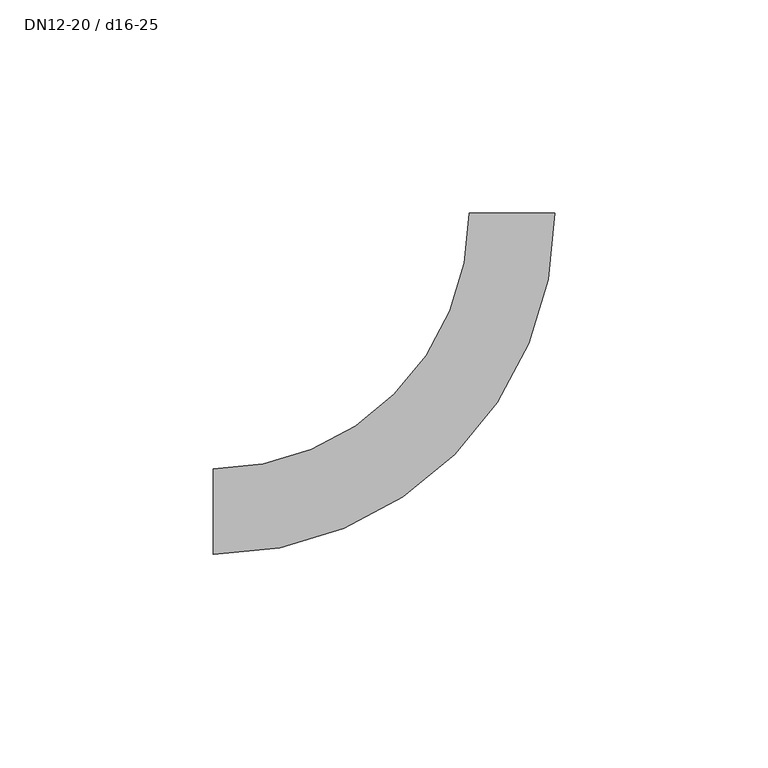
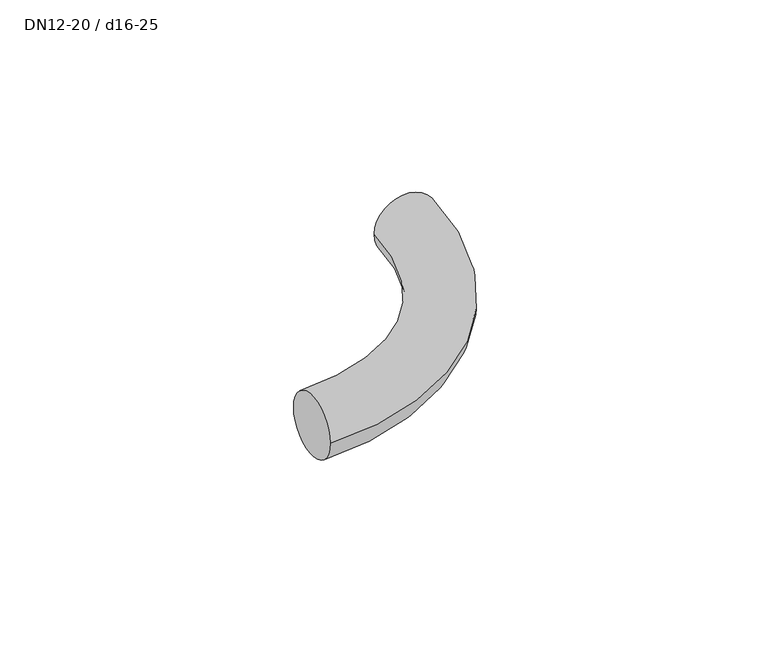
"""IFC4 building model written with IfcOpenShell, lengths in millimetres: pipe segment geometry, NLRS_50_PIF_UN_PushFit ML gebogen bocht_geb : DN12-20 / d16-25."""

import ifcopenshell
import ifcopenshell.guid

model = None  # the IFC model being written
_history = None  # IfcOwnerHistory: only IFC2X3 demands one
_inside = {}  # id of a spatial element -> (the spatial element, [elements in it])
_under = {}  # id of a project, library or spatial element -> (it, [spatial elements below it])
_declared = {}  # id of a project -> (the project, [libraries it declares])
_typed = {}  # id of a type object -> (the type object, [elements of that type])
_made_of = {}  # id of a material, layer set ... -> (it, [elements and type objects made of it])


def new_model(schema):
    """Start an empty IFC model of exactly this schema.

    Asked for "IFC4X3", IfcOpenShell would pick the latest addendum, in which some entities
    have other attributes; the version numbers below select the first issue.
    IFC2X3 requires an IfcOwnerHistory on every rooted entity: one is made here for all.
    """
    global model, _history
    if schema == "IFC4X3":
        model = ifcopenshell.file(schema_version=(4, 3, 0, 0))
    else:
        model = ifcopenshell.file(schema=schema)
    _inside.clear()
    _under.clear()
    _declared.clear()
    _typed.clear()
    _made_of.clear()
    _history = None
    if model.schema == "IFC2X3":
        org = make("IfcOrganization", Name="unknown")
        user = make(
            "IfcPersonAndOrganization",
            ThePerson=make("IfcPerson", FamilyName="unknown"),
            TheOrganization=org,
        )
        app = make(
            "IfcApplication",
            ApplicationDeveloper=org,
            Version="unknown",
            ApplicationFullName="unknown",
            ApplicationIdentifier="unknown",
        )
        _history = make(
            "IfcOwnerHistory",
            OwningUser=user,
            OwningApplication=app,
            ChangeAction="ADDED",
            CreationDate=0,
        )
    return model


def make(cls, **values):
    """One entity of the class cls with the attributes given. An attribute that is None is left unset."""
    return model.create_entity(
        cls, **{name: value for name, value in values.items() if value is not None}
    )


def rooted(cls, **values):
    """An entity with a GlobalId (a new one), such as an element, a storey or a relation."""
    return make(cls, GlobalId=ifcopenshell.guid.new(), OwnerHistory=_history, **values)


def si_unit(unit_type, name, prefix=None):
    """IfcSIUnit, for example si_unit("LENGTHUNIT", "METRE", prefix="MILLI")."""
    return make("IfcSIUnit", UnitType=unit_type, Prefix=prefix, Name=name)


def assignment(units):
    """IfcUnitAssignment: the units of a project."""
    return None if units is None else make("IfcUnitAssignment", Units=units)


def point(xyz):
    """IfcCartesianPoint."""
    return None if xyz is None else make("IfcCartesianPoint", Coordinates=xyz)


def direction(xyz):
    """IfcDirection."""
    return None if xyz is None else make("IfcDirection", DirectionRatios=xyz)


def frame(location, z_axis=None, x_axis=None):
    """IfcAxis2Placement3D, a coordinate frame: its origin and axes. An axis left out is left unset."""
    return make(
        "IfcAxis2Placement3D",
        Location=point(location),
        Axis=direction(z_axis),
        RefDirection=direction(x_axis),
    )


def origin():
    """The frame at (0, 0, 0) with its axes left unset."""
    return frame((0.0, 0.0, 0.0))


def place(relative_to, where):
    """IfcLocalPlacement: puts the frame where relative to a parent placement (None: the world)."""
    return make(
        "IfcLocalPlacement", PlacementRelTo=relative_to, RelativePlacement=where
    )


def context(
    kind, dimensions, precision=None, world=None, true_north=None, identifier=None
):
    """IfcGeometricRepresentationContext, for example the 3D "Model" context."""
    return make(
        "IfcGeometricRepresentationContext",
        ContextIdentifier=identifier,
        ContextType=kind,
        CoordinateSpaceDimension=dimensions,
        Precision=precision,
        WorldCoordinateSystem=world,
        TrueNorth=true_north,
    )


def project(units=None, contexts=None):
    """IfcProject with its units and contexts."""
    return rooted(
        "IfcProject",
        Name="project",
        RepresentationContexts=contexts,
        UnitsInContext=assignment(units),
    )


def spatial(cls, under=None, at=None, **own):
    """A site, building, storey or space (cls), placed at a placement, below another one or the project."""
    s = rooted(cls, ObjectPlacement=at, **own)
    if under is not None:
        _under.setdefault(under.id(), (under, []))[1].append(s)
    return s


def circle_curve(where, radius):
    """IfcCircle in the frame where."""
    return make("IfcCircle", Position=where, Radius=radius)


def ellipse_curve(where, semi_axis1, semi_axis2):
    """IfcEllipse in the frame where."""
    return make(
        "IfcEllipse", Position=where, SemiAxis1=semi_axis1, SemiAxis2=semi_axis2
    )


def trimmed(basis, trim1, trim2, sense, master):
    """IfcTrimmedCurve: the piece of a basis curve between two trims."""
    return make(
        "IfcTrimmedCurve",
        BasisCurve=basis,
        Trim1=trim1,
        Trim2=trim2,
        SenseAgreement=sense,
        MasterRepresentation=master,
    )


def shape(context_of_items, identifier, shape_type, items):
    """IfcShapeRepresentation: the items that make up one representation, for example the "Body"."""
    return make(
        "IfcShapeRepresentation",
        ContextOfItems=context_of_items,
        RepresentationIdentifier=identifier,
        RepresentationType=shape_type,
        Items=items,
    )


def source(mapping_origin, context_of_items, identifier, shape_type, items):
    """IfcRepresentationMap: a shape defined once, which mapped items show again and again."""
    return make(
        "IfcRepresentationMap",
        MappingOrigin=mapping_origin,
        MappedRepresentation=shape(context_of_items, identifier, shape_type, items),
    )


def transform(
    local_origin,
    x_axis=None,
    y_axis=None,
    z_axis=None,
    scale=None,
    scale2=None,
    scale3=None,
    uniform=True,
):
    """IfcCartesianTransformationOperator3D, or its non-uniform kind. x_axis, y_axis, z_axis: its Axis1, 2, 3."""
    if uniform:
        return make(
            "IfcCartesianTransformationOperator3D",
            Axis1=direction(x_axis),
            Axis2=direction(y_axis),
            LocalOrigin=point(local_origin),
            Scale=scale,
            Axis3=direction(z_axis),
        )
    return make(
        "IfcCartesianTransformationOperator3DnonUniform",
        Axis1=direction(x_axis),
        Axis2=direction(y_axis),
        LocalOrigin=point(local_origin),
        Scale=scale,
        Axis3=direction(z_axis),
        Scale2=scale2,
        Scale3=scale3,
    )


def mapped(mapping_source, mapping_target):
    """IfcMappedItem: shows the shape of a source again, moved by a transform."""
    return make(
        "IfcMappedItem", MappingSource=mapping_source, MappingTarget=mapping_target
    )


def made_of(thing, what):
    """Note that an element or type object is made of a material, layer set ...; save() writes the relation."""
    if what is not None:
        _made_of.setdefault(what.id(), (what, []))[1].append(thing)
    return thing


def element(
    cls,
    number,
    at=None,
    inside=None,
    cuts=None,
    type_object=None,
    material=None,
    context=None,
    identifier="Body",
    shape_type=None,
    held_by="IfcProductDefinitionShape",
    body=None,
    shapes=None,
    **own,
):
    """One element of the class cls, such as IfcWall. Its Tag is "e" and its number.

    at: its placement. inside: the storey or other place that contains it. cuts: it is an
    opening in that element (IfcRelVoidsElement). A single representation is given by context,
    identifier, shape_type and body (its items); several are given by shapes. held_by: the class
    of the entity that holds the representations. save() writes the other relations.
    """
    e = rooted(cls, Tag="e%d" % number, ObjectPlacement=at, **own)
    if body is not None:
        shapes = [shape(context, identifier, shape_type, body)]
    if shapes is not None:
        e.Representation = make(held_by, Representations=shapes)
    if inside is not None:
        _inside.setdefault(inside.id(), (inside, []))[1].append(e)
    if cuts is not None:
        rooted(
            "IfcRelVoidsElement", RelatingBuildingElement=cuts, RelatedOpeningElement=e
        )
    if type_object is not None:
        _typed.setdefault(type_object.id(), (type_object, []))[1].append(e)
    return made_of(e, material)


def aggregate(whole, parts):
    """IfcRelAggregates: a whole, such as a stair, and the parts it consists of."""
    return rooted("IfcRelAggregates", RelatingObject=whole, RelatedObjects=parts)


def save(model, path):
    """Write the relations noted so far, then the file.

    IfcRelAggregates (storeys below a building ...), IfcRelContainedInSpatialStructure (elements
    in a storey), IfcRelDefinesByType, IfcRelAssociatesMaterial and IfcRelDeclares: one each for
    every whole, place, type object, material and project.
    """
    for whole, parts in _under.values():
        aggregate(whole, parts)
    for where, things in _inside.values():
        rooted(
            "IfcRelContainedInSpatialStructure",
            RelatedElements=things,
            RelatingStructure=where,
        )
    for kind, things in _typed.values():
        rooted("IfcRelDefinesByType", RelatedObjects=things, RelatingType=kind)
    for what, things in _made_of.values():
        rooted("IfcRelAssociatesMaterial", RelatedObjects=things, RelatingMaterial=what)
    for by, libraries in _declared.values():
        rooted("IfcRelDeclares", RelatingContext=by, RelatedDefinitions=libraries)
    model.write(path)


def plane_surface(at):
    """IfcPlane: the flat surface through the origin of the frame at, square to its z axis."""
    return make("IfcPlane", Position=at)


def revolved_surface(curve, axis_point, axis_direction):
    """IfcSurfaceOfRevolution: the curve turned about the line through axis_point along axis_direction."""
    return make(
        "IfcSurfaceOfRevolution",
        SweptCurve=make("IfcArbitraryOpenProfileDef", ProfileType="CURVE", Curve=curve),
        AxisPosition=make("IfcAxis1Placement", Location=point(axis_point), Axis=direction(axis_direction)),
    )


def advanced_brep(points, edges, surfaces, faces):
    """IfcAdvancedBrep: a solid bounded by faces that lie on surfaces and meet in shared edges.

    An edge is (start, end): straight between two places in points (the first is 0);
    or (start, end, curve); or (start, end, curve, False) where it runs against its curve.
    A face is (place in surfaces, loops), or (place, loops, False) where it looks against
    its surface's normal. A loop lists edges by number (the first is 1), with a minus sign
    where the edge is run from its end to its start. The first loop is the outer one.
    """
    corners = [point(p) for p in points]
    vertices = [make("IfcVertexPoint", VertexGeometry=c) for c in corners]
    made = []
    for start, end, *more in edges:
        made.append(
            make(
                "IfcEdgeCurve",
                EdgeStart=vertices[start],
                EdgeEnd=vertices[end],
                EdgeGeometry=more[0] if more else make("IfcPolyline", Points=[corners[start], corners[end]]),
                SameSense=more[1] if len(more) > 1 else True,
            )
        )
    hull = []
    for where, loops, *sense in faces:
        bounds = []
        for j, loop in enumerate(loops):
            ring = [make("IfcOrientedEdge", EdgeElement=made[abs(k) - 1], Orientation=k > 0) for k in loop]
            bounds.append(
                make(
                    "IfcFaceOuterBound" if j == 0 else "IfcFaceBound",
                    Bound=make("IfcEdgeLoop", EdgeList=ring),
                    Orientation=True,
                )
            )
        hull.append(make("IfcAdvancedFace", Bounds=bounds, FaceSurface=surfaces[where], SameSense=sense[0] if sense else True))
    return make("IfcAdvancedBrep", Outer=make("IfcClosedShell", CfsFaces=hull))


def dn12_20_d16_25_e8a55d3e(model_context):
    return source(origin(), model_context, "Body", "AdvancedBrep", [
        advanced_brep(
        [(-70.0, -10.0, 0.0), (-70.0, 10.0, 0.0), (10.0, 70.0, 0.0), (-10.0, 70.0, 0.0)],
        [
            (0, 1, circle_curve(frame((-70.0, 0.0, 0.0), z_axis=(-1.0, 0.0, 0.0), x_axis=(0.0, 1.0, 0.0)), 10.0)),
            (1, 0, circle_curve(frame((-70.0, 0.0, 0.0), z_axis=(-1.0, 0.0, 0.0), x_axis=(0.0, 1.0, 0.0)), 10.0)),
            (2, 3, circle_curve(frame((0.0, 70.0, 0.0), z_axis=(0.0, 1.0, 0.0), x_axis=(-1.0, 0.0, 0.0)), 10.0)),
            (3, 2, circle_curve(frame((0.0, 70.0, 0.0), z_axis=(0.0, 1.0, 0.0), x_axis=(-1.0, 0.0, 0.0)), 10.0)),
            (3, 1, circle_curve(frame((-70.0, 70.0, 0.0), z_axis=(0.0, 0.0, -1.0), x_axis=(0.0, -1.0, 0.0)), 60.0)),
            (0, 2, circle_curve(frame((-70.0, 70.0, 0.0), z_axis=(0.0, 0.0, 1.0), x_axis=(0.0, -1.0, 0.0)), 80.0)),
        ],
        [
            plane_surface(frame((-70.0, 0.0, 0.0), z_axis=(-1.0, 0.0, 0.0), x_axis=(0.0, 0.0, 1.0))),
            plane_surface(frame((0.0, 70.0, 0.0), z_axis=(0.0, 1.0, 0.0), x_axis=(0.0, 0.0, 1.0))),
            revolved_surface(trimmed(ellipse_curve(frame((-70.0, 0.0, 0.0), z_axis=(-1.0, 0.0, 0.0), x_axis=(0.0, 1.0, 0.0)), 10.0, 10.0), [point((-70.0, -10.0, 0.0))], [point((-70.0, 10.0, 0.0))], True, "CARTESIAN"), (-70.0, 70.0, 0.0), (0.0, 0.0, 1.0)),
            revolved_surface(trimmed(ellipse_curve(frame((-70.0, 0.0, 0.0), z_axis=(-1.0, 0.0, 0.0), x_axis=(0.0, 1.0, 0.0)), 10.0, 10.0), [point((-70.0, 10.0, 0.0))], [point((-70.0, -10.0, 0.0))], True, "CARTESIAN"), (-70.0, 70.0, 0.0), (0.0, 0.0, 1.0)),
        ],
        [
            (0, [[1, 2]]),
            (1, [[3, 4]]),
            (2, [[5, -1, 6, -4]]),
            (3, [[-6, -2, -5, -3]]),
        ],
    ),
    ])


if __name__ == "__main__":
    model = new_model("IFC4")
    model_context = context("Model", 3, world=origin())
    ifc_project = project(units=[si_unit("LENGTHUNIT", "METRE", prefix="MILLI")], contexts=[model_context])
    site = spatial("IfcSite", under=ifc_project)
    building = spatial("IfcBuilding", under=site)
    placement = place(None, origin())
    dn12_20_d16_25_shape = dn12_20_d16_25_e8a55d3e(model_context)
    element("IfcPipeSegment", 1, ObjectType="NLRS_50_PIF_UN_PushFit ML gebogen bocht_geb : DN12-20 / d16-25", at=placement, inside=building, context=model_context, shape_type="MappedRepresentation", body=[
        mapped(dn12_20_d16_25_shape, transform((0.0, 0.0, 0.0), x_axis=(1.0, 0.0, 0.0), y_axis=(0.0, 1.0, 0.0), z_axis=(0.0, 0.0, 1.0))),
    ])
    save(model, "model.ifc")
